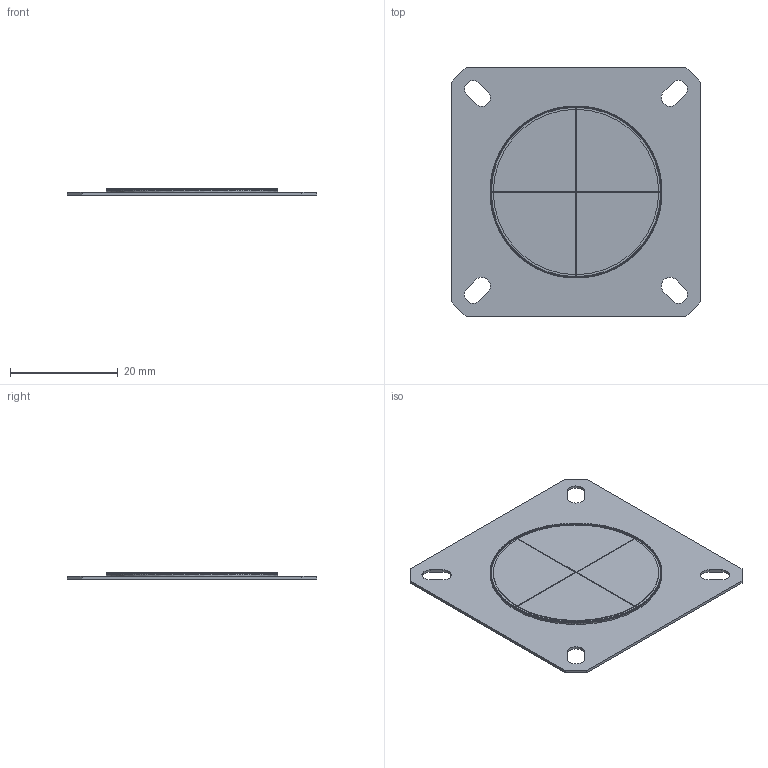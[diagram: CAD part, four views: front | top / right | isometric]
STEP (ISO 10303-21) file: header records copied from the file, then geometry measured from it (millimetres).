
FILE_DESCRIPTION((''),'2;1');
FILE_NAME('PROTO_INSERT_SIM_DUMMY-25','2020-10-15T11:22:04',('ccole'),(''),'CREO PARAMETRIC BY PTC INC, 2019292','CREO PARAMETRIC BY PTC INC, 2019292','');
FILE_SCHEMA(('CONFIG_CONTROL_DESIGN'));
Length unit declared in the file: inch
Products named in the file (1): PROTO_INSERT_SIM_DUMMY-25
Bounding box: 46.3 x 46.3 x 1.14 mm (x, y, z)
Volume: 1447 mm3; surface area: 4359.9 mm2
Topology: 1 solids, 1 shells, 1147 faces, 3423 edges, 2279 vertices
Faces by surface type: plane 581, cylinder 566
Entity records: 42255 total; most frequent: CARTESIAN_POINT 14562, ORIENTED_EDGE 6846, DIRECTION 4309, EDGE_CURVE 3423, VERTEX_POINT 2279, B_SPLINE_CURVE_WITH_KNOTS 1811, AXIS2_PLACEMENT_3D 1550, VECTOR 1209
